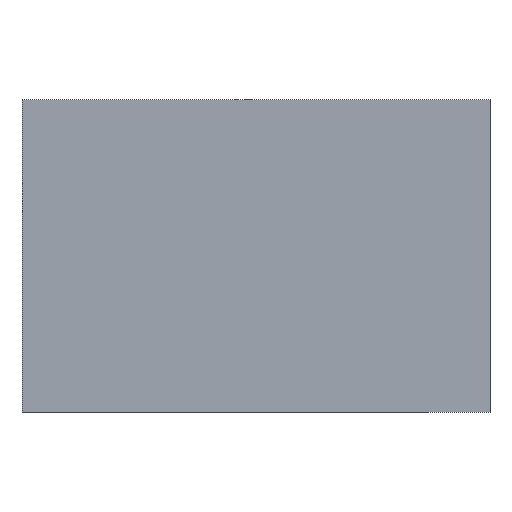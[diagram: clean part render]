
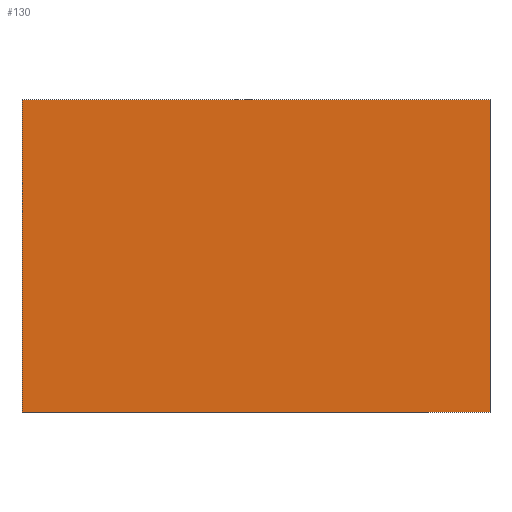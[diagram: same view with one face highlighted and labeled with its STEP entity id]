
A CAD part, front view. The second image highlights one B-rep face of the part: STEP entity #130.
In plain terms, the highlighted planar face has unit normal (0, -1, 0).
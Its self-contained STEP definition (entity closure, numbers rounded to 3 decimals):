
#130=ADVANCED_FACE('',(#222),#224,.F.);
#222=FACE_BOUND('',#223,.T.);
#223=EDGE_LOOP('',(#294,#295,#296,#297));
#224=PLANE('',#225);
#225=AXIS2_PLACEMENT_3D('',#226,#227,#228);
#226=CARTESIAN_POINT('',(0.,-1.,0.));
#227=DIRECTION('',(0.,1.,0.));
#228=DIRECTION('',(-1.,0.,0.));
#294=ORIENTED_EDGE('',*,*,#323,.F.);
#295=ORIENTED_EDGE('',*,*,#316,.F.);
#296=ORIENTED_EDGE('',*,*,#310,.F.);
#297=ORIENTED_EDGE('',*,*,#339,.F.);
#310=EDGE_CURVE('',#340,#341,#342,.T.);
#316=EDGE_CURVE('',#341,#352,#353,.T.);
#323=EDGE_CURVE('',#352,#365,#366,.T.);
#339=EDGE_CURVE('',#365,#340,#389,.T.);
#340=VERTEX_POINT('',#390);
#341=VERTEX_POINT('',#391);
#342=LINE('',#392,#393);
#352=VERTEX_POINT('',#414);
#353=LINE('',#415,#416);
#365=VERTEX_POINT('',#441);
#366=LINE('',#442,#443);
#389=LINE('',#497,#498);
#390=CARTESIAN_POINT('',(15.,-1.,20.));
#391=CARTESIAN_POINT('',(15.,-1.,0.));
#392=CARTESIAN_POINT('',(15.,-1.,20.));
#393=VECTOR('',#394,1.);
#394=DIRECTION('',(0.,0.,-1.));
#414=CARTESIAN_POINT('',(-15.,-1.,0.));
#415=CARTESIAN_POINT('',(15.,-1.,0.));
#416=VECTOR('',#417,1.);
#417=DIRECTION('',(-1.,0.,0.));
#441=CARTESIAN_POINT('',(-15.,-1.,20.));
#442=CARTESIAN_POINT('',(-15.,-1.,0.));
#443=VECTOR('',#444,1.);
#444=DIRECTION('',(0.,0.,1.));
#497=CARTESIAN_POINT('',(-15.,-1.,20.));
#498=VECTOR('',#499,1.);
#499=DIRECTION('',(1.,0.,0.));
